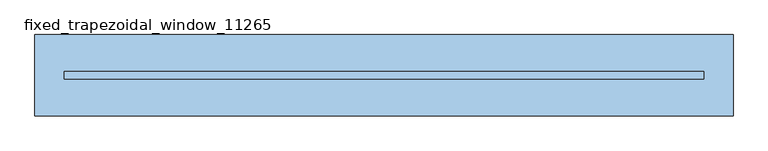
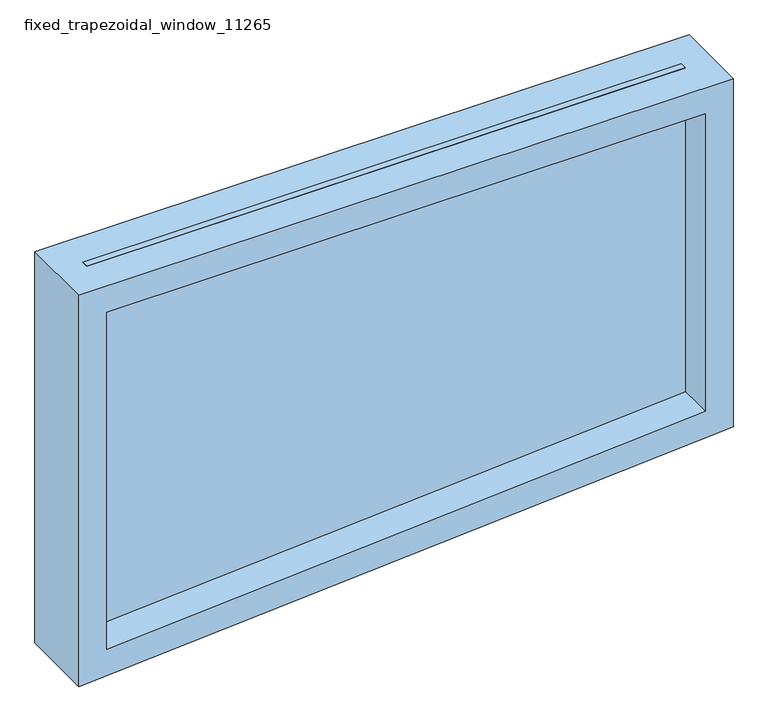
"""IFC4 building model written with IfcOpenShell, lengths in millimetres: window geometry, fixed_trapezoidal_window_11265 : Menuiserie 9.2."""

from ifc_helpers import new_model, si_unit, frame, origin, place, context, project, spatial, polyline, outline, extrude, source, transform, mapped, element, save


def fixed_trapezoidal_window_11265_4c59b6dc(model_context):
    return source(origin(), model_context, "Body", "SweptSolid", [
        extrude(outline(polyline([(1978.2, -587.3), (1273.6763305, -587.3), (1350.4839407, 511.1), (1978.2, 511.1), (1978.2, -587.3)])), frame((0.0, -6.35, 0.0), z_axis=(0.0, 1.0, 0.0), x_axis=(0.0, 0.0, 1.0)), (0.0, 0.0, 1.0), 12.7),
        extrude(outline(polyline([(1978.2, 561.9), (1978.2, -638.1), (1219.2, -638.1), (1303.1121743, 561.9), (1978.2, 561.9)]), holes=[polyline([(1927.4, 511.1), (1350.4839407, 511.1), (1273.6763305, -587.3), (1927.4, -587.3), (1927.4, 511.1)])]), frame((0.0, -69.85, 0.0), z_axis=(0.0, 1.0, 0.0), x_axis=(0.0, 0.0, 1.0)), (0.0, 0.0, 1.0), 139.7),
    ])


if __name__ == "__main__":
    model = new_model("IFC4")
    model_context = context("Model", 3, world=origin())
    ifc_project = project(units=[si_unit("LENGTHUNIT", "METRE", prefix="MILLI")], contexts=[model_context])
    site = spatial("IfcSite", under=ifc_project)
    building = spatial("IfcBuilding", under=site)
    placement = place(None, origin())
    fixed_trapezoidal_window_11265_shape = fixed_trapezoidal_window_11265_4c59b6dc(model_context)
    element("IfcWindow", 1, ObjectType="fixed_trapezoidal_window_11265 : Menuiserie 9.2", at=placement, inside=building, context=model_context, shape_type="MappedRepresentation", body=[
        mapped(fixed_trapezoidal_window_11265_shape, transform((0.0, 0.0, 0.0), x_axis=(1.0, 0.0, 0.0), y_axis=(0.0, 1.0, 0.0), z_axis=(0.0, 0.0, 1.0))),
    ])
    save(model, "model.ifc")
